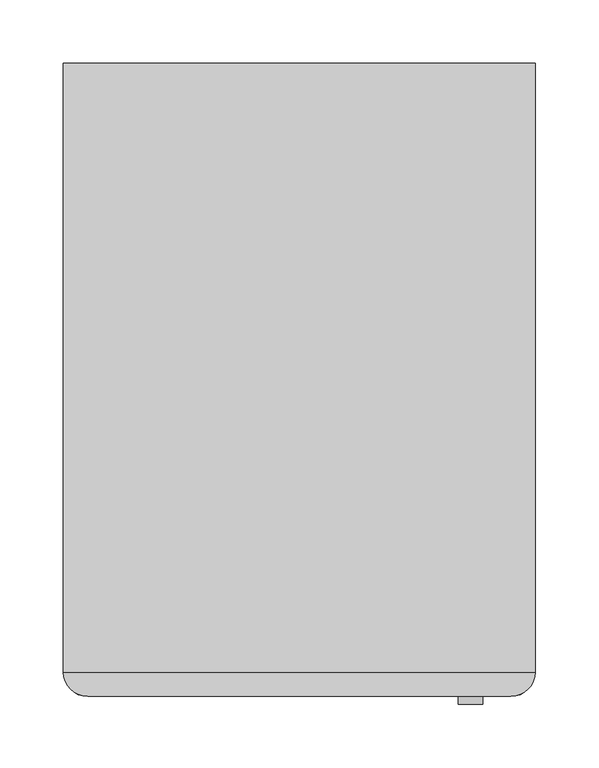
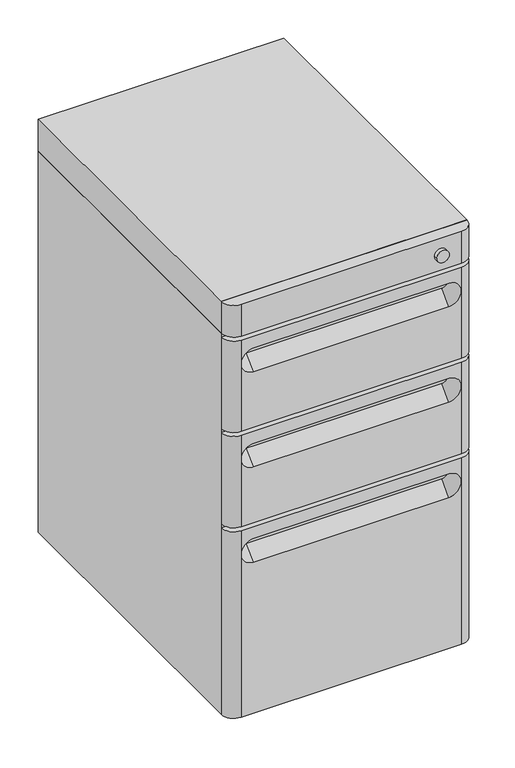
"""IFC4 building model written with IfcOpenShell, lengths in millimetres: furniture geometry."""

import ifcopenshell
import ifcopenshell.guid

model = None  # the IFC model being written
_history = None  # IfcOwnerHistory: only IFC2X3 demands one
_inside = {}  # id of a spatial element -> (the spatial element, [elements in it])
_under = {}  # id of a project, library or spatial element -> (it, [spatial elements below it])
_declared = {}  # id of a project -> (the project, [libraries it declares])
_typed = {}  # id of a type object -> (the type object, [elements of that type])
_made_of = {}  # id of a material, layer set ... -> (it, [elements and type objects made of it])


def new_model(schema):
    """Start an empty IFC model of exactly this schema.

    Asked for "IFC4X3", IfcOpenShell would pick the latest addendum, in which some entities
    have other attributes; the version numbers below select the first issue.
    IFC2X3 requires an IfcOwnerHistory on every rooted entity: one is made here for all.
    """
    global model, _history
    if schema == "IFC4X3":
        model = ifcopenshell.file(schema_version=(4, 3, 0, 0))
    else:
        model = ifcopenshell.file(schema=schema)
    _inside.clear()
    _under.clear()
    _declared.clear()
    _typed.clear()
    _made_of.clear()
    _history = None
    if model.schema == "IFC2X3":
        org = make("IfcOrganization", Name="unknown")
        user = make(
            "IfcPersonAndOrganization",
            ThePerson=make("IfcPerson", FamilyName="unknown"),
            TheOrganization=org,
        )
        app = make(
            "IfcApplication",
            ApplicationDeveloper=org,
            Version="unknown",
            ApplicationFullName="unknown",
            ApplicationIdentifier="unknown",
        )
        _history = make(
            "IfcOwnerHistory",
            OwningUser=user,
            OwningApplication=app,
            ChangeAction="ADDED",
            CreationDate=0,
        )
    return model


def make(cls, **values):
    """One entity of the class cls with the attributes given. An attribute that is None is left unset."""
    return model.create_entity(
        cls, **{name: value for name, value in values.items() if value is not None}
    )


def rooted(cls, **values):
    """An entity with a GlobalId (a new one), such as an element, a storey or a relation."""
    return make(cls, GlobalId=ifcopenshell.guid.new(), OwnerHistory=_history, **values)


def si_unit(unit_type, name, prefix=None):
    """IfcSIUnit, for example si_unit("LENGTHUNIT", "METRE", prefix="MILLI")."""
    return make("IfcSIUnit", UnitType=unit_type, Prefix=prefix, Name=name)


def assignment(units):
    """IfcUnitAssignment: the units of a project."""
    return None if units is None else make("IfcUnitAssignment", Units=units)


def point(xyz):
    """IfcCartesianPoint."""
    return None if xyz is None else make("IfcCartesianPoint", Coordinates=xyz)


def direction(xyz):
    """IfcDirection."""
    return None if xyz is None else make("IfcDirection", DirectionRatios=xyz)


def frame(location, z_axis=None, x_axis=None):
    """IfcAxis2Placement3D, a coordinate frame: its origin and axes. An axis left out is left unset."""
    return make(
        "IfcAxis2Placement3D",
        Location=point(location),
        Axis=direction(z_axis),
        RefDirection=direction(x_axis),
    )


def frame_2d(location, x_axis=None):
    """IfcAxis2Placement2D, a coordinate frame in the plane: its origin and x axis."""
    return make(
        "IfcAxis2Placement2D", Location=point(location), RefDirection=direction(x_axis)
    )


def origin():
    """The frame at (0, 0, 0) with its axes left unset."""
    return frame((0.0, 0.0, 0.0))


def origin_with_axes():
    """The frame at (0, 0, 0) with the z axis (0, 0, 1) and the x axis (1, 0, 0) written out."""
    return frame((0.0, 0.0, 0.0), z_axis=(0.0, 0.0, 1.0), x_axis=(1.0, 0.0, 0.0))


def place(relative_to, where):
    """IfcLocalPlacement: puts the frame where relative to a parent placement (None: the world)."""
    return make(
        "IfcLocalPlacement", PlacementRelTo=relative_to, RelativePlacement=where
    )


def context(
    kind, dimensions, precision=None, world=None, true_north=None, identifier=None
):
    """IfcGeometricRepresentationContext, for example the 3D "Model" context."""
    return make(
        "IfcGeometricRepresentationContext",
        ContextIdentifier=identifier,
        ContextType=kind,
        CoordinateSpaceDimension=dimensions,
        Precision=precision,
        WorldCoordinateSystem=world,
        TrueNorth=true_north,
    )


def project(units=None, contexts=None):
    """IfcProject with its units and contexts."""
    return rooted(
        "IfcProject",
        Name="project",
        RepresentationContexts=contexts,
        UnitsInContext=assignment(units),
    )


def spatial(cls, under=None, at=None, **own):
    """A site, building, storey or space (cls), placed at a placement, below another one or the project."""
    s = rooted(cls, ObjectPlacement=at, **own)
    if under is not None:
        _under.setdefault(under.id(), (under, []))[1].append(s)
    return s


def polyline(points):
    """IfcPolyline through the points."""
    return make("IfcPolyline", Points=[point(p) for p in points])


def circle_curve(where, radius):
    """IfcCircle in the frame where."""
    return make("IfcCircle", Position=where, Radius=radius)


def trimmed(basis, trim1, trim2, sense, master):
    """IfcTrimmedCurve: the piece of a basis curve between two trims."""
    return make(
        "IfcTrimmedCurve",
        BasisCurve=basis,
        Trim1=trim1,
        Trim2=trim2,
        SenseAgreement=sense,
        MasterRepresentation=master,
    )


def segment(curve, same_sense, transition):
    """IfcCompositeCurveSegment."""
    return make(
        "IfcCompositeCurveSegment",
        Transition=transition,
        SameSense=same_sense,
        ParentCurve=curve,
    )


def composite_curve(segments, self_intersect=None):
    """IfcCompositeCurve: segments joined end to end."""
    return make("IfcCompositeCurve", Segments=segments, SelfIntersect=self_intersect)


def outline(outer, holes=None, kind="AREA"):
    """IfcArbitraryClosedProfileDef: a profile drawn as a closed curve; with holes, ...WithVoids."""
    if holes is None:
        return make("IfcArbitraryClosedProfileDef", ProfileType=kind, OuterCurve=outer)
    return make(
        "IfcArbitraryProfileDefWithVoids",
        ProfileType=kind,
        OuterCurve=outer,
        InnerCurves=holes,
    )


def extrude(swept, where, along, depth):
    """IfcExtrudedAreaSolid: the profile swept, set in the frame where, extruded along a direction by depth."""
    return make(
        "IfcExtrudedAreaSolid",
        SweptArea=swept,
        Position=where,
        ExtrudedDirection=direction(along),
        Depth=depth,
    )


def shape(context_of_items, identifier, shape_type, items):
    """IfcShapeRepresentation: the items that make up one representation, for example the "Body"."""
    return make(
        "IfcShapeRepresentation",
        ContextOfItems=context_of_items,
        RepresentationIdentifier=identifier,
        RepresentationType=shape_type,
        Items=items,
    )


def source(mapping_origin, context_of_items, identifier, shape_type, items):
    """IfcRepresentationMap: a shape defined once, which mapped items show again and again."""
    return make(
        "IfcRepresentationMap",
        MappingOrigin=mapping_origin,
        MappedRepresentation=shape(context_of_items, identifier, shape_type, items),
    )


def transform(
    local_origin,
    x_axis=None,
    y_axis=None,
    z_axis=None,
    scale=None,
    scale2=None,
    scale3=None,
    uniform=True,
):
    """IfcCartesianTransformationOperator3D, or its non-uniform kind. x_axis, y_axis, z_axis: its Axis1, 2, 3."""
    if uniform:
        return make(
            "IfcCartesianTransformationOperator3D",
            Axis1=direction(x_axis),
            Axis2=direction(y_axis),
            LocalOrigin=point(local_origin),
            Scale=scale,
            Axis3=direction(z_axis),
        )
    return make(
        "IfcCartesianTransformationOperator3DnonUniform",
        Axis1=direction(x_axis),
        Axis2=direction(y_axis),
        LocalOrigin=point(local_origin),
        Scale=scale,
        Axis3=direction(z_axis),
        Scale2=scale2,
        Scale3=scale3,
    )


def mapped(mapping_source, mapping_target):
    """IfcMappedItem: shows the shape of a source again, moved by a transform."""
    return make(
        "IfcMappedItem", MappingSource=mapping_source, MappingTarget=mapping_target
    )


def made_of(thing, what):
    """Note that an element or type object is made of a material, layer set ...; save() writes the relation."""
    if what is not None:
        _made_of.setdefault(what.id(), (what, []))[1].append(thing)
    return thing


def element(
    cls,
    number,
    at=None,
    inside=None,
    cuts=None,
    type_object=None,
    material=None,
    context=None,
    identifier="Body",
    shape_type=None,
    held_by="IfcProductDefinitionShape",
    body=None,
    shapes=None,
    **own,
):
    """One element of the class cls, such as IfcWall. Its Tag is "e" and its number.

    at: its placement. inside: the storey or other place that contains it. cuts: it is an
    opening in that element (IfcRelVoidsElement). A single representation is given by context,
    identifier, shape_type and body (its items); several are given by shapes. held_by: the class
    of the entity that holds the representations. save() writes the other relations.
    """
    e = rooted(cls, Tag="e%d" % number, ObjectPlacement=at, **own)
    if body is not None:
        shapes = [shape(context, identifier, shape_type, body)]
    if shapes is not None:
        e.Representation = make(held_by, Representations=shapes)
    if inside is not None:
        _inside.setdefault(inside.id(), (inside, []))[1].append(e)
    if cuts is not None:
        rooted(
            "IfcRelVoidsElement", RelatingBuildingElement=cuts, RelatedOpeningElement=e
        )
    if type_object is not None:
        _typed.setdefault(type_object.id(), (type_object, []))[1].append(e)
    return made_of(e, material)


def aggregate(whole, parts):
    """IfcRelAggregates: a whole, such as a stair, and the parts it consists of."""
    return rooted("IfcRelAggregates", RelatingObject=whole, RelatedObjects=parts)


def save(model, path):
    """Write the relations noted so far, then the file.

    IfcRelAggregates (storeys below a building ...), IfcRelContainedInSpatialStructure (elements
    in a storey), IfcRelDefinesByType, IfcRelAssociatesMaterial and IfcRelDeclares: one each for
    every whole, place, type object, material and project.
    """
    for whole, parts in _under.values():
        aggregate(whole, parts)
    for where, things in _inside.values():
        rooted(
            "IfcRelContainedInSpatialStructure",
            RelatedElements=things,
            RelatingStructure=where,
        )
    for kind, things in _typed.values():
        rooted("IfcRelDefinesByType", RelatedObjects=things, RelatingType=kind)
    for what, things in _made_of.values():
        rooted("IfcRelAssociatesMaterial", RelatedObjects=things, RelatingMaterial=what)
    for by, libraries in _declared.values():
        rooted("IfcRelDeclares", RelatingContext=by, RelatedDefinitions=libraries)
    model.write(path)


def plane_surface(at):
    """IfcPlane: the flat surface through the origin of the frame at, square to its z axis."""
    return make("IfcPlane", Position=at)


def cylinder_surface(at, radius):
    """IfcCylindricalSurface: all points at the distance radius from the z axis of the frame at."""
    return make("IfcCylindricalSurface", Position=at, Radius=radius)


def spline_surface(u_degree, v_degree, points, u_multiplicities, v_multiplicities, u_knots, v_knots, weights=None):
    """IfcBSplineSurfaceWithKnots; with weights, IfcRationalBSplineSurfaceWithKnots. points: one row for each step in u."""
    own = dict(
        UDegree=u_degree,
        VDegree=v_degree,
        ControlPointsList=[[point(p) for p in row] for row in points],
        SurfaceForm="UNSPECIFIED",
        UClosed=False,
        VClosed=False,
        SelfIntersect=False,
        UMultiplicities=u_multiplicities,
        VMultiplicities=v_multiplicities,
        UKnots=u_knots,
        VKnots=v_knots,
        KnotSpec="UNSPECIFIED",
    )
    if weights is None:
        return make("IfcBSplineSurfaceWithKnots", **own)
    return make("IfcRationalBSplineSurfaceWithKnots", WeightsData=weights, **own)


def advanced_brep(points, edges, surfaces, faces):
    """IfcAdvancedBrep: a solid bounded by faces that lie on surfaces and meet in shared edges.

    An edge is (start, end): straight between two places in points (the first is 0);
    or (start, end, curve); or (start, end, curve, False) where it runs against its curve.
    A face is (place in surfaces, loops), or (place, loops, False) where it looks against
    its surface's normal. A loop lists edges by number (the first is 1), with a minus sign
    where the edge is run from its end to its start. The first loop is the outer one.
    """
    corners = [point(p) for p in points]
    vertices = [make("IfcVertexPoint", VertexGeometry=c) for c in corners]
    made = []
    for start, end, *more in edges:
        made.append(
            make(
                "IfcEdgeCurve",
                EdgeStart=vertices[start],
                EdgeEnd=vertices[end],
                EdgeGeometry=more[0] if more else make("IfcPolyline", Points=[corners[start], corners[end]]),
                SameSense=more[1] if len(more) > 1 else True,
            )
        )
    hull = []
    for where, loops, *sense in faces:
        bounds = []
        for j, loop in enumerate(loops):
            ring = [make("IfcOrientedEdge", EdgeElement=made[abs(k) - 1], Orientation=k > 0) for k in loop]
            bounds.append(
                make(
                    "IfcFaceOuterBound" if j == 0 else "IfcFaceBound",
                    Bound=make("IfcEdgeLoop", EdgeList=ring),
                    Orientation=True,
                )
            )
        hull.append(make("IfcAdvancedFace", Bounds=bounds, FaceSurface=surfaces[where], SameSense=sense[0] if sense else True))
    return make("IfcAdvancedBrep", Outer=make("IfcClosedShell", CfsFaces=hull))


def furniture_7da167ec(model_context):
    return source(origin(), model_context, "Body", "SolidModel", [
        extrude(outline(polyline([(185.7375, 249.2375), (185.7375, -230.1875), (-185.7375, -230.1875), (-185.7375, 249.2375), (185.7375, 249.2375)])), frame((0.0, 0.0, 9.525), z_axis=(0.0, 0.0, 1.0), x_axis=(1.0, 0.0, 0.0)), (0.0, 0.0, 1.0), 609.6),
        extrude(outline(polyline([(185.7375, 249.2375), (185.7375, -230.1875), (-185.7375, -230.1875), (-185.7375, 249.2375), (185.7375, 249.2375)])), frame((0.0, 0.0, 619.125), z_axis=(0.0, 0.0, 1.0), x_axis=(1.0, 0.0, 0.0)), (0.0, 0.0, 1.0), 50.8),
        extrude(outline(composite_curve([segment(trimmed(circle_curve(frame_2d((-134.9375, -179.3875)), 25.4), [point((-160.3375, -179.3875))], [point((-109.5375, -179.3875))], False, "CARTESIAN"), True, "CONTINUOUS"), segment(trimmed(circle_curve(frame_2d((-134.9375, -179.3875)), 25.4), [point((-109.5375, -179.3875))], [point((-160.3375, -179.3875))], False, "CARTESIAN"), True, "CONTINUOUS")], self_intersect=False)), origin_with_axes(), (0.0, 0.0, 1.0), 9.525),
        extrude(outline(composite_curve([segment(trimmed(circle_curve(frame_2d((-134.9375, 198.4375)), 25.4), [point((-160.3375, 198.4375))], [point((-109.5375, 198.4375))], False, "CARTESIAN"), True, "CONTINUOUS"), segment(trimmed(circle_curve(frame_2d((-134.9375, 198.4375)), 25.4), [point((-109.5375, 198.4375))], [point((-160.3375, 198.4375))], False, "CARTESIAN"), True, "CONTINUOUS")], self_intersect=False)), origin_with_axes(), (0.0, 0.0, 1.0), 9.525),
        extrude(outline(composite_curve([segment(trimmed(circle_curve(frame_2d((134.9375, 198.4375)), 25.4), [point((109.5375, 198.4375))], [point((160.3375, 198.4375))], False, "CARTESIAN"), True, "CONTINUOUS"), segment(trimmed(circle_curve(frame_2d((134.9375, 198.4375)), 25.4), [point((160.3375, 198.4375))], [point((109.5375, 198.4375))], False, "CARTESIAN"), True, "CONTINUOUS")], self_intersect=False)), origin_with_axes(), (0.0, 0.0, 1.0), 9.525),
        extrude(outline(composite_curve([segment(trimmed(circle_curve(frame_2d((134.9375, -179.3875)), 25.4), [point((109.5375, -179.3875))], [point((160.3375, -179.3875))], False, "CARTESIAN"), True, "CONTINUOUS"), segment(trimmed(circle_curve(frame_2d((134.9375, -179.3875)), 25.4), [point((160.3375, -179.3875))], [point((109.5375, -179.3875))], False, "CARTESIAN"), True, "CONTINUOUS")], self_intersect=False)), origin_with_axes(), (0.0, 0.0, 1.0), 9.525),
        extrude(outline(composite_curve([segment(trimmed(circle_curve(frame_2d((166.6875, -230.1875)), 19.05), [point((185.7375, -230.1875))], [point((166.6875, -249.2375))], False, "CARTESIAN"), True, "CONTINUOUS"), segment(polyline([(166.6875, -249.2375), (-166.6875, -249.2375)]), True, "CONTINUOUS"), segment(trimmed(circle_curve(frame_2d((-166.6875, -230.1875)), 19.05), [point((-166.6875, -249.2375))], [point((-185.7375, -230.1875))], False, "CARTESIAN"), True, "CONTINUOUS"), segment(polyline([(-185.7375, -230.1875), (185.7375, -230.1875)]), True, "CONTINUOUS")], self_intersect=False)), frame((0.0, 0.0, 619.125), z_axis=(0.0, 0.0, 1.0), x_axis=(1.0, 0.0, 0.0)), (0.0, 0.0, 1.0), 50.8),
        extrude(outline(composite_curve([segment(trimmed(circle_curve(frame_2d((644.525, 134.9375)), 9.525), [point((644.525, 125.4125))], [point((644.525, 144.4625))], False, "CARTESIAN"), True, "CONTINUOUS"), segment(trimmed(circle_curve(frame_2d((644.525, 134.9375)), 9.525), [point((644.525, 144.4625))], [point((644.525, 125.4125))], False, "CARTESIAN"), True, "CONTINUOUS")], self_intersect=False)), frame((0.0, -255.5875, 0.0), z_axis=(0.0, 1.0, 0.0), x_axis=(0.0, 0.0, 1.0)), (0.0, 0.0, 1.0), 6.35),
        advanced_brep(
        [(185.7375, -230.1875, 612.775), (-185.7375, -230.1875, 612.775), (-166.6875, -249.2375, 612.775), (166.6875, -249.2375, 612.775), (185.7375, -230.1875, 466.725), (166.6875, -249.2375, 466.725), (-166.6875, -249.2375, 466.725), (-185.7375, -230.1875, 466.725), (147.6375, -230.1875, 574.675), (147.6375, -230.1875, 593.725), (-147.6375, -230.1875, 593.725), (-147.6375, -230.1875, 574.675), (-166.6875, -249.2375, 574.675), (-147.6375, -249.2375, 593.725), (147.6375, -249.2375, 593.725), (166.6875, -249.2375, 574.675), (147.6375, -249.2375, 555.625), (-147.6375, -249.2375, 555.625)],
        [
            (0, 1),
            (1, 2, circle_curve(frame((-166.6875, -230.1875, 612.775), z_axis=(0.0, 0.0, 1.0), x_axis=(1.0, 0.0, 0.0)), 19.05)),
            (2, 3),
            (3, 0, circle_curve(frame((166.6875, -230.1875, 612.775), z_axis=(0.0, 0.0, 1.0), x_axis=(1.0, 0.0, 0.0)), 19.05)),
            (4, 5, circle_curve(frame((166.6875, -230.1875, 466.725), z_axis=(0.0, 0.0, -1.0), x_axis=(1.0, 0.0, 0.0)), 19.05)),
            (5, 6),
            (6, 7, circle_curve(frame((-166.6875, -230.1875, 466.725), z_axis=(0.0, 0.0, -1.0), x_axis=(1.0, 0.0, 0.0)), 19.05)),
            (7, 4),
            (0, 4),
            (7, 1),
            (8, 9, circle_curve(frame((147.6375, -230.1875, 584.2), z_axis=(0.0, -1.0, 0.0), x_axis=(0.0, 0.0, 1.0)), 9.525)),
            (9, 10),
            (10, 11, circle_curve(frame((-147.6375, -230.1875, 584.2), z_axis=(0.0, -1.0, 0.0), x_axis=(0.0, 0.0, 1.0)), 9.525)),
            (11, 8),
            (6, 12),
            (12, 2),
            (12, 13, circle_curve(frame((-147.6375, -249.2375, 574.675), z_axis=(0.0, 1.0, 0.0), x_axis=(0.0, 0.0, 1.0)), 19.05)),
            (13, 14),
            (14, 15, circle_curve(frame((147.6375, -249.2375, 574.675), z_axis=(0.0, 1.0, 0.0), x_axis=(0.0, 0.0, 1.0)), 19.05)),
            (15, 3),
            (5, 15),
            (15, 16, circle_curve(frame((147.6375, -249.2375, 574.675), z_axis=(0.0, 1.0, 0.0), x_axis=(0.0, 0.0, 1.0)), 19.05)),
            (16, 17),
            (17, 12, circle_curve(frame((-147.6375, -249.2375, 574.675), z_axis=(0.0, 1.0, 0.0), x_axis=(0.0, 0.0, 1.0)), 19.05)),
            (14, 9),
            (8, 16),
            (11, 17),
            (10, 13),
        ],
        [
            plane_surface(frame((-185.7375, -230.1875, 612.775), z_axis=(0.0, 0.0, 1.0), x_axis=(-1.0, 0.0, 0.0))),
            plane_surface(frame((-185.7375, -230.1875, 466.725), z_axis=(0.0, 0.0, -1.0), x_axis=(1.0, 0.0, 0.0))),
            plane_surface(frame((185.7375, -230.1875, 612.775), z_axis=(0.0, 1.0, 0.0), x_axis=(0.0, 0.0, -1.0))),
            cylinder_surface(frame((-166.6875, -230.1875, 466.725), z_axis=(0.0, 0.0, 1.0), x_axis=(1.0, 0.0, 0.0)), 19.05),
            plane_surface(frame((-166.6875, -249.2375, 612.775), z_axis=(0.0, -1.0, 0.0), x_axis=(0.0, 0.0, -1.0))),
            cylinder_surface(frame((166.6875, -230.1875, 466.725), z_axis=(0.0, 0.0, 1.0), x_axis=(1.0, 0.0, 0.0)), 19.05),
            spline_surface(1, 2, [[(147.6375, -249.2375, 593.725), (166.68750000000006, -249.2375, 593.725), (166.68750000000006, -249.2375, 574.675), (166.68750000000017, -249.2375, 555.6249999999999), (147.6375, -249.2375, 555.625)], [(147.6375, -230.1875, 593.725), (157.16249999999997, -230.1875, 593.725), (157.16249999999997, -230.1875, 584.2), (157.16250000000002, -230.1875, 574.6750000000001), (147.6375, -230.1875, 574.675)]], [2, 2], [3, 2, 3], [0.0, 1.0], [0.0, 1.0, 2.0], weights=[[1.0, 0.7071067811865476, 1.0, 0.7071067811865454, 1.0], [1.0, 0.7071067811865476, 1.0, 0.7071067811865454, 1.0]]),
            plane_surface(frame((0.0, -249.2375, 555.625), z_axis=(0.0, -0.7071067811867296, 0.7071067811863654), x_axis=(-1.0, 0.0, 0.0))),
            spline_surface(1, 2, [[(-147.6375, -249.2375, 555.625), (-166.68749999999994, -249.2375, 555.625), (-166.68749999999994, -249.2375, 574.675), (-166.68749999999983, -249.2375, 593.7249999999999), (-147.6375, -249.2375, 593.725)], [(-147.6375, -230.1875, 574.675), (-157.16250000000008, -230.1875, 574.675), (-157.16250000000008, -230.1875, 584.2), (-157.16250000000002, -230.1875, 593.7250000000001), (-147.6375, -230.1875, 593.725)]], [2, 2], [3, 2, 3], [0.0, 1.0], [0.0, 1.0, 2.0], weights=[[1.0, 0.7071067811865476, 1.0, 0.7071067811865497, 1.0], [1.0, 0.7071067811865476, 1.0, 0.7071067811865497, 1.0]]),
            plane_surface(frame((0.0, -249.2375, 593.725), z_axis=(0.0, 0.0, -1.0), x_axis=(1.0, 0.0, 0.0))),
        ],
        [
            (0, [[1, 2, 3, 4]]),
            (1, [[5, 6, 7, 8]]),
            (2, [[-1, 9, -8, 10], [11, 12, 13, 14]]),
            (3, [[-2, -10, -7, 15, 16]]),
            (4, [[-3, -16, 17, 18, 19, 20]]),
            (4, [[-6, 21, 22, 23, 24, -15]]),
            (5, [[-4, -20, -21, -5, -9]]),
            (6, [[25, -11, 26, -22, -19]]),
            (7, [[-26, -14, 27, -23]]),
            (8, [[-27, -13, 28, -17, -24]]),
            (9, [[-25, -18, -28, -12]]),
        ],
    ),
        advanced_brep(
        [(185.7375, -230.1875, 460.375), (-185.7375, -230.1875, 460.375), (-166.6875, -249.2375, 460.375), (166.6875, -249.2375, 460.375), (185.7375, -230.1875, 314.325), (166.6875, -249.2375, 314.325), (-166.6875, -249.2375, 314.325), (-185.7375, -230.1875, 314.325), (147.6375, -230.1875, 422.275), (147.6375, -230.1875, 441.325), (-147.6375, -230.1875, 441.325), (-147.6375, -230.1875, 422.275), (-166.6875, -249.2375, 422.275), (-147.6375, -249.2375, 441.325), (147.6375, -249.2375, 441.325), (166.6875, -249.2375, 422.275), (147.6375, -249.2375, 403.225), (-147.6375, -249.2375, 403.225)],
        [
            (0, 1),
            (1, 2, circle_curve(frame((-166.6875, -230.1875, 460.375), z_axis=(0.0, 0.0, 1.0), x_axis=(1.0, 0.0, 0.0)), 19.05)),
            (2, 3),
            (3, 0, circle_curve(frame((166.6875, -230.1875, 460.375), z_axis=(0.0, 0.0, 1.0), x_axis=(1.0, 0.0, 0.0)), 19.05)),
            (4, 5, circle_curve(frame((166.6875, -230.1875, 314.325), z_axis=(0.0, 0.0, -1.0), x_axis=(1.0, 0.0, 0.0)), 19.05)),
            (5, 6),
            (6, 7, circle_curve(frame((-166.6875, -230.1875, 314.325), z_axis=(0.0, 0.0, -1.0), x_axis=(1.0, 0.0, 0.0)), 19.05)),
            (7, 4),
            (0, 4),
            (7, 1),
            (8, 9, circle_curve(frame((147.6375, -230.1875, 431.8), z_axis=(0.0, -1.0, 0.0), x_axis=(0.0, 0.0, 1.0)), 9.525)),
            (9, 10),
            (10, 11, circle_curve(frame((-147.6375, -230.1875, 431.8), z_axis=(0.0, -1.0, 0.0), x_axis=(0.0, 0.0, 1.0)), 9.525)),
            (11, 8),
            (6, 12),
            (12, 2),
            (12, 13, circle_curve(frame((-147.6375, -249.2375, 422.275), z_axis=(0.0, 1.0, 0.0), x_axis=(0.0, 0.0, 1.0)), 19.05)),
            (13, 14),
            (14, 15, circle_curve(frame((147.6375, -249.2375, 422.275), z_axis=(0.0, 1.0, 0.0), x_axis=(0.0, 0.0, 1.0)), 19.05)),
            (15, 3),
            (5, 15),
            (15, 16, circle_curve(frame((147.6375, -249.2375, 422.275), z_axis=(0.0, 1.0, 0.0), x_axis=(0.0, 0.0, 1.0)), 19.05)),
            (16, 17),
            (17, 12, circle_curve(frame((-147.6375, -249.2375, 422.275), z_axis=(0.0, 1.0, 0.0), x_axis=(0.0, 0.0, 1.0)), 19.05)),
            (14, 9),
            (8, 16),
            (11, 17),
            (10, 13),
        ],
        [
            plane_surface(frame((-185.7375, -230.1875, 460.375), z_axis=(0.0, 0.0, 1.0), x_axis=(-1.0, 0.0, 0.0))),
            plane_surface(frame((-185.7375, -230.1875, 314.325), z_axis=(0.0, 0.0, -1.0), x_axis=(1.0, 0.0, 0.0))),
            plane_surface(frame((185.7375, -230.1875, 460.375), z_axis=(0.0, 1.0, 0.0), x_axis=(0.0, 0.0, -1.0))),
            cylinder_surface(frame((-166.6875, -230.1875, 314.325), z_axis=(0.0, 0.0, 1.0), x_axis=(1.0, 0.0, 0.0)), 19.05),
            plane_surface(frame((-166.6875, -249.2375, 460.375), z_axis=(0.0, -1.0, 0.0), x_axis=(0.0, 0.0, -1.0))),
            cylinder_surface(frame((166.6875, -230.1875, 314.325), z_axis=(0.0, 0.0, 1.0), x_axis=(1.0, 0.0, 0.0)), 19.05),
            spline_surface(1, 2, [[(147.6375, -249.2375, 441.325), (166.6875, -249.2375, 441.325), (166.6875, -249.2375, 422.275), (166.68750000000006, -249.2375, 403.22499999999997), (147.6375, -249.2375, 403.225)], [(147.6375, -230.1875, 441.325), (157.16249999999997, -230.1875, 441.325), (157.16249999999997, -230.1875, 431.8), (157.1625, -230.1875, 422.27500000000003), (147.6375, -230.1875, 422.275)]], [2, 2], [3, 2, 3], [0.0, 1.0], [0.0, 1.0, 2.0], weights=[[1.0, 0.7071067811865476, 1.0, 0.7071067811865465, 1.0], [1.0, 0.7071067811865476, 1.0, 0.7071067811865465, 1.0]]),
            plane_surface(frame((0.0, -249.2375, 403.225), z_axis=(0.0, -0.7071067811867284, 0.7071067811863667), x_axis=(-1.0, 0.0, 0.0))),
            spline_surface(1, 2, [[(-147.6375, -249.2375, 403.225), (-166.68749999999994, -249.2375, 403.225), (-166.68749999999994, -249.2375, 422.275), (-166.6874999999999, -249.2375, 441.32499999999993), (-147.6375, -249.2375, 441.325)], [(-147.6375, -230.1875, 422.275), (-157.16250000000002, -230.1875, 422.275), (-157.16250000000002, -230.1875, 431.8), (-157.1625, -230.1875, 441.32500000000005), (-147.6375, -230.1875, 441.325)]], [2, 2], [3, 2, 3], [0.0, 1.0], [0.0, 1.0, 2.0], weights=[[1.0, 0.7071067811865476, 1.0, 0.7071067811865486, 1.0], [1.0, 0.7071067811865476, 1.0, 0.7071067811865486, 1.0]]),
            plane_surface(frame((0.0, -249.2375, 441.325), z_axis=(0.0, 0.0, -1.0), x_axis=(1.0, 0.0, 0.0))),
        ],
        [
            (0, [[1, 2, 3, 4]]),
            (1, [[5, 6, 7, 8]]),
            (2, [[-1, 9, -8, 10], [11, 12, 13, 14]]),
            (3, [[-2, -10, -7, 15, 16]]),
            (4, [[-3, -16, 17, 18, 19, 20]]),
            (4, [[-6, 21, 22, 23, 24, -15]]),
            (5, [[-4, -20, -21, -5, -9]]),
            (6, [[25, -11, 26, -22, -19]]),
            (7, [[-26, -14, 27, -23]]),
            (8, [[-27, -13, 28, -17, -24]]),
            (9, [[-25, -18, -28, -12]]),
        ],
    ),
        advanced_brep(
        [(185.7375, -230.1875, 307.975), (-185.7375, -230.1875, 307.975), (-166.6875, -249.2375, 307.975), (166.6875, -249.2375, 307.975), (185.7375, -230.1875, 9.525), (166.6875, -249.2375, 9.525), (-166.6875, -249.2375, 9.525), (-185.7375, -230.1875, 9.525), (147.6375, -230.1875, 269.875), (147.6375, -230.1875, 288.925), (-147.6375, -230.1875, 288.925), (-147.6375, -230.1875, 269.875), (-166.6875, -249.2375, 269.875), (-147.6375, -249.2375, 288.925), (147.6375, -249.2375, 288.925), (166.6875, -249.2375, 269.875), (147.6375, -249.2375, 250.825), (-147.6375, -249.2375, 250.825)],
        [
            (0, 1),
            (1, 2, circle_curve(frame((-166.6875, -230.1875, 307.975), z_axis=(0.0, 0.0, 1.0), x_axis=(1.0, 0.0, 0.0)), 19.05)),
            (2, 3),
            (3, 0, circle_curve(frame((166.6875, -230.1875, 307.975), z_axis=(0.0, 0.0, 1.0), x_axis=(1.0, 0.0, 0.0)), 19.05)),
            (4, 5, circle_curve(frame((166.6875, -230.1875, 9.525), z_axis=(0.0, 0.0, -1.0), x_axis=(1.0, 0.0, 0.0)), 19.05)),
            (5, 6),
            (6, 7, circle_curve(frame((-166.6875, -230.1875, 9.525), z_axis=(0.0, 0.0, -1.0), x_axis=(1.0, 0.0, 0.0)), 19.05)),
            (7, 4),
            (0, 4),
            (7, 1),
            (8, 9, circle_curve(frame((147.6375, -230.1875, 279.4), z_axis=(0.0, -1.0, 0.0), x_axis=(0.0, 0.0, 1.0)), 9.525)),
            (9, 10),
            (10, 11, circle_curve(frame((-147.6375, -230.1875, 279.4), z_axis=(0.0, -1.0, 0.0), x_axis=(0.0, 0.0, 1.0)), 9.525)),
            (11, 8),
            (6, 12),
            (12, 2),
            (12, 13, circle_curve(frame((-147.6375, -249.2375, 269.875), z_axis=(0.0, 1.0, 0.0), x_axis=(0.0, 0.0, 1.0)), 19.05)),
            (13, 14),
            (14, 15, circle_curve(frame((147.6375, -249.2375, 269.875), z_axis=(0.0, 1.0, 0.0), x_axis=(0.0, 0.0, 1.0)), 19.05)),
            (15, 3),
            (5, 15),
            (15, 16, circle_curve(frame((147.6375, -249.2375, 269.875), z_axis=(0.0, 1.0, 0.0), x_axis=(0.0, 0.0, 1.0)), 19.05)),
            (16, 17),
            (17, 12, circle_curve(frame((-147.6375, -249.2375, 269.875), z_axis=(0.0, 1.0, 0.0), x_axis=(0.0, 0.0, 1.0)), 19.05)),
            (14, 9),
            (8, 16),
            (11, 17),
            (10, 13),
        ],
        [
            plane_surface(frame((-185.7375, -230.1875, 307.975), z_axis=(0.0, 0.0, 1.0), x_axis=(-1.0, 0.0, 0.0))),
            plane_surface(frame((-185.7375, -230.1875, 9.525), z_axis=(0.0, 0.0, -1.0), x_axis=(1.0, 0.0, 0.0))),
            plane_surface(frame((185.7375, -230.1875, 307.975), z_axis=(0.0, 1.0, 0.0), x_axis=(0.0, 0.0, -1.0))),
            cylinder_surface(frame((-166.6875, -230.1875, 9.525), z_axis=(0.0, 0.0, 1.0), x_axis=(1.0, 0.0, 0.0)), 19.05),
            plane_surface(frame((-166.6875, -249.2375, 307.975), z_axis=(0.0, -1.0, 0.0), x_axis=(0.0, 0.0, -1.0))),
            cylinder_surface(frame((166.6875, -230.1875, 9.525), z_axis=(0.0, 0.0, 1.0), x_axis=(1.0, 0.0, 0.0)), 19.05),
            spline_surface(1, 2, [[(147.6375, -249.2375, 288.925), (166.6875, -249.2375, 288.925), (166.6875, -249.2375, 269.875), (166.6875, -249.2375, 250.825), (147.6375, -249.2375, 250.825)], [(147.6375, -230.1875, 288.925), (157.16250000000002, -230.1875, 288.925), (157.16250000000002, -230.1875, 279.4), (157.16250000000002, -230.1875, 269.87499999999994), (147.6375, -230.1875, 269.875)]], [2, 2], [3, 2, 3], [0.0, 1.0], [0.0, 1.0, 2.0], weights=[[1.0, 0.7071067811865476, 1.0, 0.7071067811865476, 1.0], [1.0, 0.7071067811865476, 1.0, 0.7071067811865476, 1.0]]),
            plane_surface(frame((0.0, -249.2375, 250.825), z_axis=(0.0, -0.7071067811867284, 0.7071067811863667), x_axis=(-1.0, 0.0, 0.0))),
            spline_surface(1, 2, [[(-147.6375, -249.2375, 250.825), (-166.6875, -249.2375, 250.825), (-166.6875, -249.2375, 269.875), (-166.6875, -249.2375, 288.925), (-147.6375, -249.2375, 288.925)], [(-147.6375, -230.1875, 269.875), (-157.16249999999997, -230.1875, 269.875), (-157.16249999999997, -230.1875, 279.4), (-157.16249999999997, -230.1875, 288.92499999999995), (-147.6375, -230.1875, 288.925)]], [2, 2], [3, 2, 3], [0.0, 1.0], [0.0, 1.0, 2.0], weights=[[1.0, 0.7071067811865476, 1.0, 0.7071067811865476, 1.0], [1.0, 0.7071067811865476, 1.0, 0.7071067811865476, 1.0]]),
            plane_surface(frame((0.0, -249.2375, 288.925), z_axis=(0.0, 0.0, -1.0), x_axis=(1.0, 0.0, 0.0))),
        ],
        [
            (0, [[1, 2, 3, 4]]),
            (1, [[5, 6, 7, 8]]),
            (2, [[-1, 9, -8, 10], [11, 12, 13, 14]]),
            (3, [[-2, -10, -7, 15, 16]]),
            (4, [[-3, -16, 17, 18, 19, 20]]),
            (4, [[-6, 21, 22, 23, 24, -15]]),
            (5, [[-4, -20, -21, -5, -9]]),
            (6, [[25, -11, 26, -22, -19]]),
            (7, [[-26, -14, 27, -23]]),
            (8, [[-27, -13, 28, -17, -24]]),
            (9, [[-25, -18, -28, -12]]),
        ],
    ),
    ])


if __name__ == "__main__":
    model = new_model("IFC4")
    model_context = context("Model", 3, world=origin())
    ifc_project = project(units=[si_unit("LENGTHUNIT", "METRE", prefix="MILLI")], contexts=[model_context])
    site = spatial("IfcSite", under=ifc_project)
    building = spatial("IfcBuilding", under=site)
    placement = place(None, origin())
    furniture_shape = furniture_7da167ec(model_context)
    element("IfcFurniture", 1, ObjectType="HermanMiller_Quadrant_G5110_B-PullFreestandingPedestal : 26-1/2\"H x 20\"D x 15\"W BBF", at=placement, inside=building, context=model_context, shape_type="MappedRepresentation", body=[
        mapped(furniture_shape, transform((0.0, 0.0, 0.0), x_axis=(1.0, 0.0, 0.0), y_axis=(0.0, 1.0, 0.0), z_axis=(0.0, 0.0, 1.0))),
    ])
    save(model, "model.ifc")
